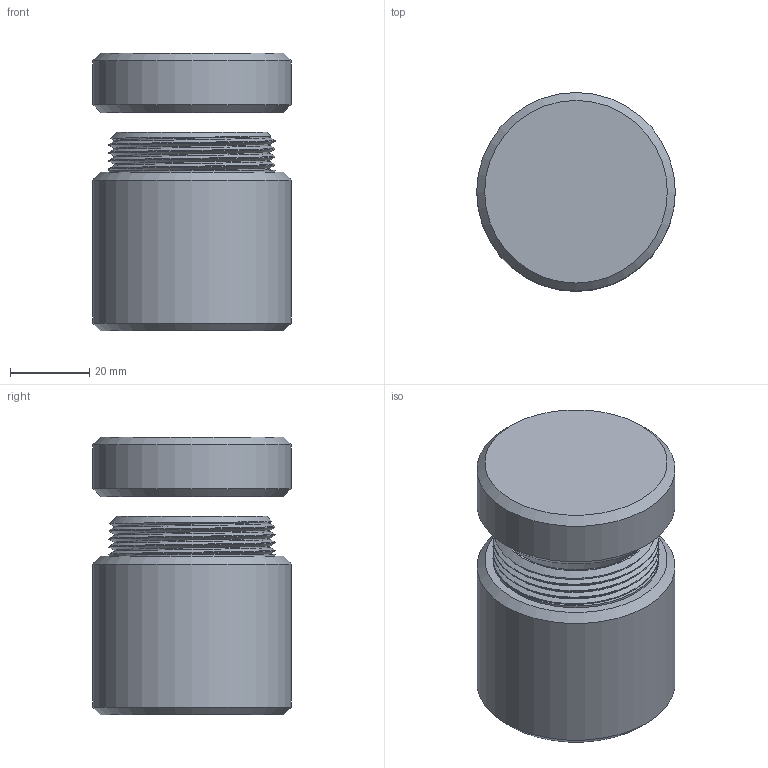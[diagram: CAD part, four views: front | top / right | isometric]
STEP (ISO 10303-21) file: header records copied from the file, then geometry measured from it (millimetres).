
FILE_DESCRIPTION(/* description */ (''),/* implementation_level */ '2;1');
FILE_NAME(/* name */ 'C:/Downloads/Smooth Box Corrected v2.step',/* time_stamp */ '2022-04-12T01:55:51-05:00',/* author */ (''),/* organization */ (''),/* preprocessor_version */ 'ST-DEVELOPER v18.1',/* originating_system */ 'Autodesk Translation Framework v10.14.0.1471',/* authorisation */ '');
FILE_SCHEMA (('AUTOMOTIVE_DESIGN { 1 0 10303 214 3 1 1 }'));
Length unit declared in the file: millimetre
Products named in the file (3): Smooth Box Corrected; Smooth Base v1; Smooth Lid v1
Assembly tree (2 placements, depth 2):
  Smooth Box Corrected
    Smooth Base v1
    Smooth Lid v1
Bounding box: 50 x 50 x 70 mm (x, y, z)
Volume: 28405.5 mm3; surface area: 27529 mm2
Topology: 2 solids, 2 shells, 53 faces, 146 edges, 101 vertices
Faces by surface type: cylinder 27, plane 12, cone 10, bspline 4
Full cylindrical faces by diameter (mm): 37 x1, 39.529 x3, 40.023 x6, 41.822 x4, 42.257 x5, 46 x1, 50 x2
Entity records: 10909 total; most frequent: CARTESIAN_POINT 9581, ORIENTED_EDGE 292, DIRECTION 217, EDGE_CURVE 146, VERTEX_POINT 101, AXIS2_PLACEMENT_3D 91, B_SPLINE_CURVE_WITH_KNOTS 73, EDGE_LOOP 56
